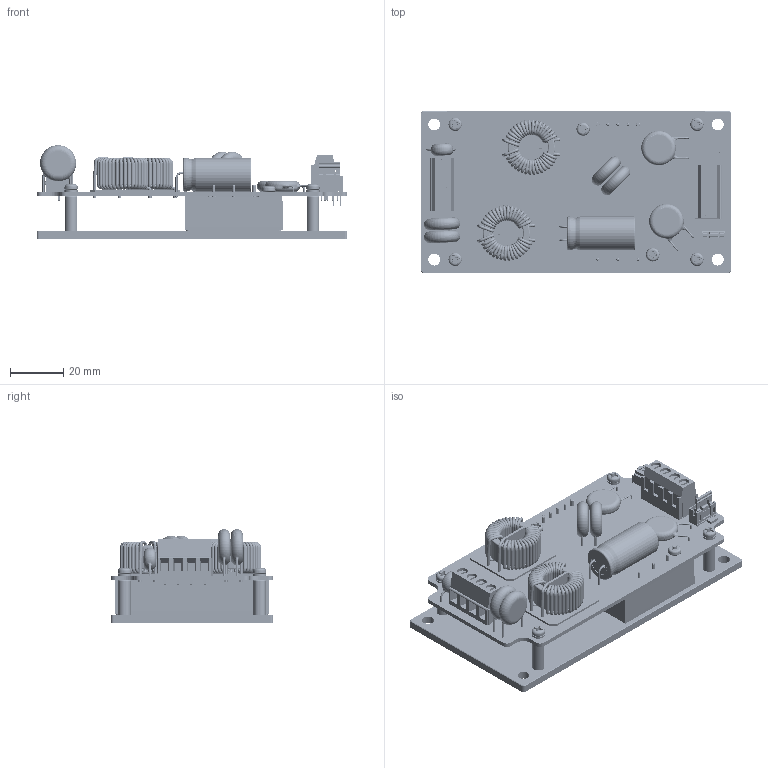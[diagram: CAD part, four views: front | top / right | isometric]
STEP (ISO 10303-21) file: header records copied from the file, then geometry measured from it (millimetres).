
FILE_DESCRIPTION (( 'STEP AP203' ), '1' );
FILE_NAME ('CQB50W8 CMFC¦¨«~¹Ï2025.01.02.STEP', '2025-01-03T09:15:29', ( '' ), ( '' ), 'SwSTEP 2.0', 'SolidWorks 2020', '' );
FILE_SCHEMA (( 'CONFIG_CONTROL_DESIGN' ));
Products named in the file (1): CQB50W8 CMFC成品圖2025.01.02
Bounding box: 116.84 x 60.96 x 35.19 mm (x, y, z)
Volume: 77295.6 mm3; surface area: 54262.1 mm2
Topology: 79 solids, 81 shells, 2416 faces, 6021 edges, 3785 vertices
Faces by surface type: plane 1204, cylinder 544, torus 341, bspline 274, cone 52, sphere 1
Full cylindrical faces by diameter (mm): 0.6 x8, 0.8 x14, 1.02 x12, 1.15 x332, 1.5 x6, 2.2 x4, 2.8 x9, 3 x4, 3.2 x5, 3.25 x1, 3.5 x4, 3.76 x2, 3.8 x8, 4 x8, 4.2 x4, 4.5 x6, 4.7 x4, 5 x6, 8 x1, 8.2 x1, 9 x1, 12.5 x2, 12.8 x2, 17.8 x2
Entity records: 112544 total; most frequent: CARTESIAN_POINT 61200, ORIENTED_EDGE 10084, DIRECTION 9573, EDGE_CURVE 5042, VERTEX_POINT 3622, EDGE_LOOP 3468, AXIS2_PLACEMENT_3D 3343, FACE_OUTER_BOUND 3174
